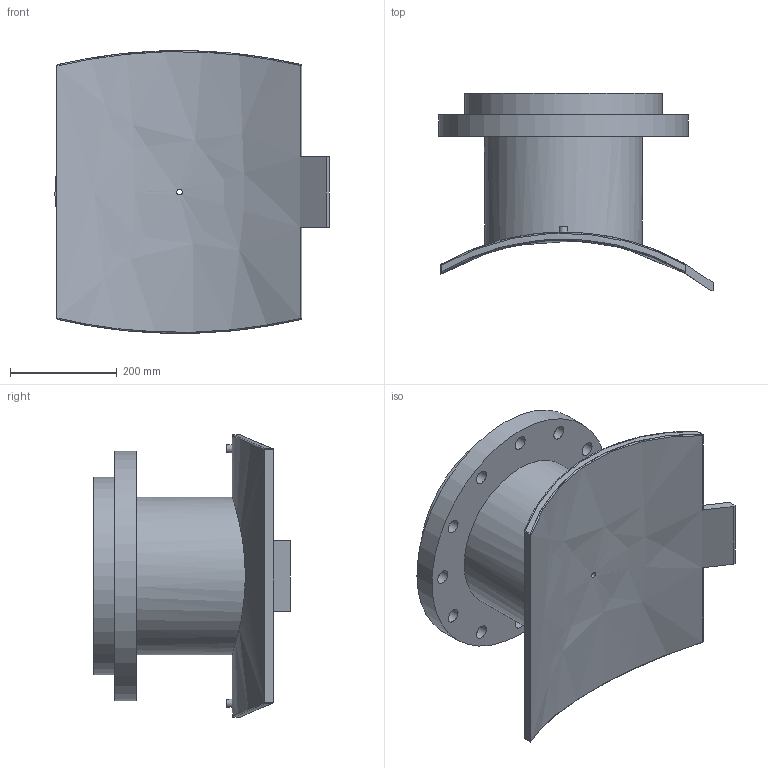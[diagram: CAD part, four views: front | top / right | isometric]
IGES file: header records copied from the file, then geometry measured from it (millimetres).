
Global section: file name: 495903900300T; native system: Autodesk Inventor 2019; preprocessor: unknown; author: KIM; date: 20240403.210526; units: millimetre
Bounding box: 513.96 x 369.13 x 529.56 mm (x, y, z)
Volume: 13807775.4 mm3; surface area: 1288647.4 mm2
Topology: 1 solids, 1 shells, 62 faces, 163 edges, 126 vertices
Faces by surface type: bspline 62
